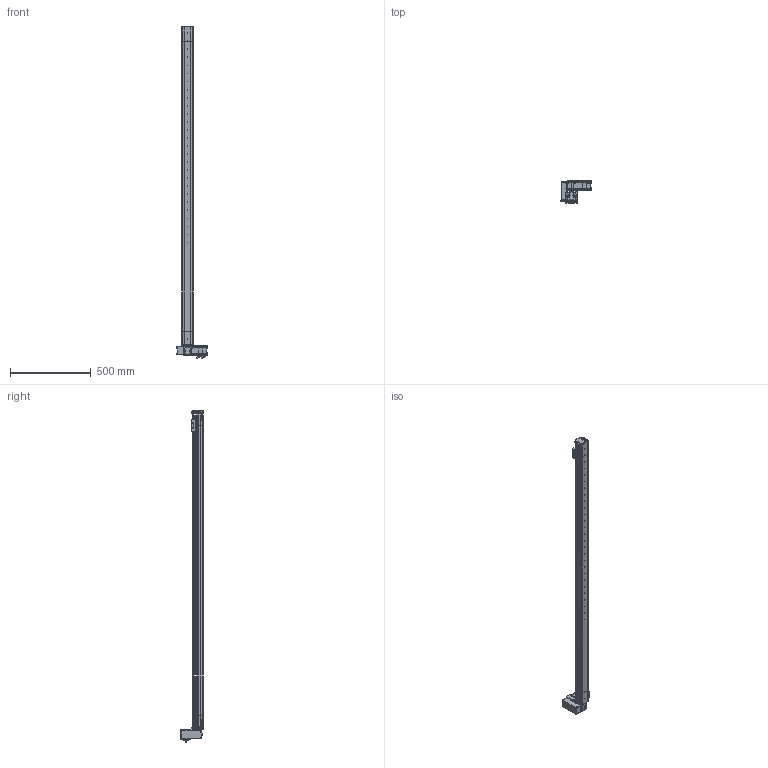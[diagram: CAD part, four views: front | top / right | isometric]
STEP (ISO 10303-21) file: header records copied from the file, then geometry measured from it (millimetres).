
FILE_DESCRIPTION (( 'STEP AP214' ), '1' );
FILE_NAME ('S07 TBN RT S1800.STEP', '2010-06-29T12:20:25', ( 'Conseil Régional Haute-Normandie' ), ( 'Conseil Régional Haute-Normandie' ), 'SwSTEP 2.0', 'SolidWorks 2010', '' );
FILE_SCHEMA (( 'AUTOMOTIVE_DESIGN' ));
Length unit declared in the file: millimetre
Products named in the file (41): Conecteur2 60BLDC_Default; Cvis M5 L30_Default; VisM3_Default; Conecteur 60BLDC_Default; Axe 60BLDC_Default; P4_Default; P3 90A_Default; P2 90A_Default; P1_Default; GMB 60 90 310_Default; renvoi RT_Default; Plaque racord_Default; Pièce5^S07 RT(146); Couroie t皻e_Default; vis M5 L16_Default; Chariot; guide; CHariot_Default; T皻e de poulie_Default; Poulie_Default; couvercle tail TB; couroie tail_Default; vis M5 L12_Default; plaque de bout_Default; corp tail TB_Default; S07 TB tail (78)_Default; Vis M5 L16-2_Default; S07 TBN RT S1800; Couroie  course 1800_Default; Corp S07 course 1800_Default; Course C L1800_Default; corp moteur TB(146)_Default; S07 RT(146)_Default; couvercle S07 course 1800 ; cache t皻e axe_Default; couvercle moteur S07 TB; plaque de bout RT_Default; vis M5 L5_Default; cache t皻e_Default; Poulie head_Default
Assembly tree (80 placements, depth 4):
  Pièce5^S07 RT(146)
  S07 TBN RT S1800
    Course C L1800_Default
      couvercle S07 course 1800 
      Corp S07 course 1800_Default
      Couroie  course 1800_Default
    CHariot_Default
      vis M5 L16_Default  x2
      Chariot
      guide
    S07 RT(146)_Default
      Vis M5 L16-2_Default  x8
      vis M5 L12_Default  x6
      Cvis M5 L30_Default  x2
      vis M5 L5_Default  x6
      Couroie t皻e_Default
      cache t皻e_Default  x2
      GMB 60 90 310_Default
        VisM3_Default  x12
        P2 90A_Default
        P1_Default
        Axe 60BLDC_Default
        P3 90A_Default
        Conecteur2 60BLDC_Default
        Conecteur 60BLDC_Default
        P4_Default
      Poulie head_Default
      plaque de bout RT_Default
      couvercle moteur S07 TB
      Plaque racord_Default
      renvoi RT_Default
      cache t皻e axe_Default
      corp moteur TB(146)_Default
    S07 TB tail (78)_Default
      corp tail TB_Default
      vis M5 L12_Default  x10
      plaque de bout_Default
      couroie tail_Default
      couvercle tail TB
      Poulie_Default
        T皻e de poulie_Default
        Poulie_Default
Bounding box: 190.2 x 139.5 x 2062 mm (x, y, z)
Volume: 3908372.1 mm3; surface area: 1723256.3 mm2
Topology: 102 solids, 102 shells, 3950 faces, 9822 edges, 6345 vertices
Faces by surface type: plane 2239, cylinder 781, bspline 677, cone 125, torus 124, sphere 4
Entity records: 167921 total; most frequent: CARTESIAN_POINT 75311, ORIENTED_EDGE 15556, DIRECTION 12439, EDGE_CURVE 7778, VERTEX_POINT 5133, LINE 5061, VECTOR 5061, AXIS2_PLACEMENT_3D 3689
